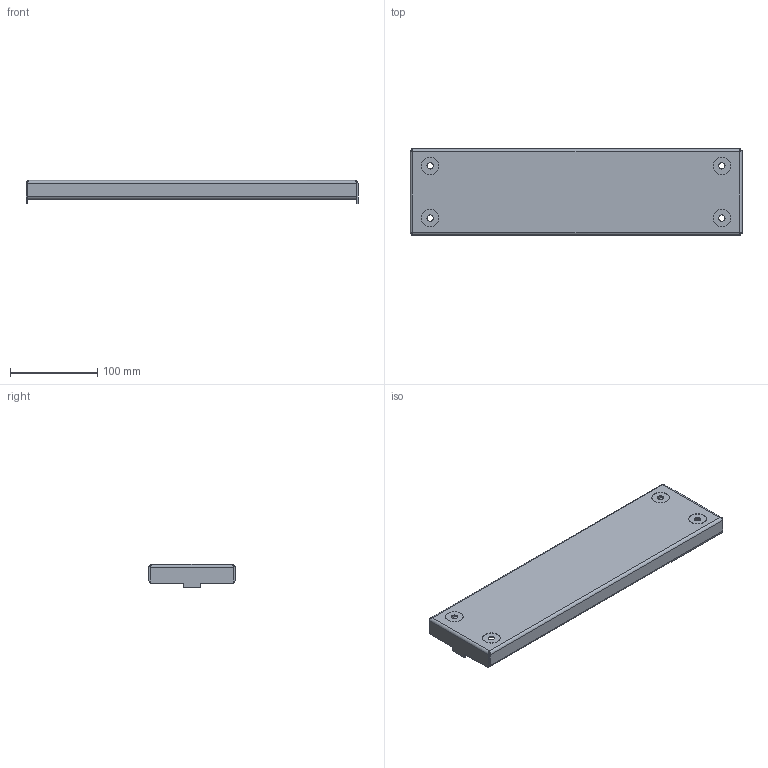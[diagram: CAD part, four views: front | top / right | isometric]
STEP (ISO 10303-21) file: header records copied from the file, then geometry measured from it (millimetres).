
FILE_DESCRIPTION(('STEP AP203'), '1');
FILE_NAME('Ïàíåëü öîêîëÿ Â=100 Ø=500 ìì RAL7022 OptiBox M (2 øò) 419691 ÊÝÀÇ', '', ('UNSPECIFIED'), ('UNSPECIFIED'), 'C3D Converter', 'C3D Toolkit', '');
FILE_SCHEMA(('CONFIG_CONTROL_DESIGN'));
Length unit declared in the file: millimetre
Bounding box: 381.3 x 99 x 26.5 mm (x, y, z)
Volume: 87220.2 mm3; surface area: 127471.1 mm2
Topology: 1 solids, 1 shells, 102 faces, 240 edges, 144 vertices
Faces by surface type: cylinder 48, plane 46, bspline 8
Full cylindrical faces by diameter (mm): 4.6 x28, 7.3 x4, 20 x4
Entity records: 4032 total; most frequent: CARTESIAN_POINT 1679, DIRECTION 454, ORIENTED_EDGE 408, EDGE_LOOP 206, EDGE_CURVE 204, AXIS2_PLACEMENT_3D 175, VERTEX_POINT 144, FACE_BOUND 134
